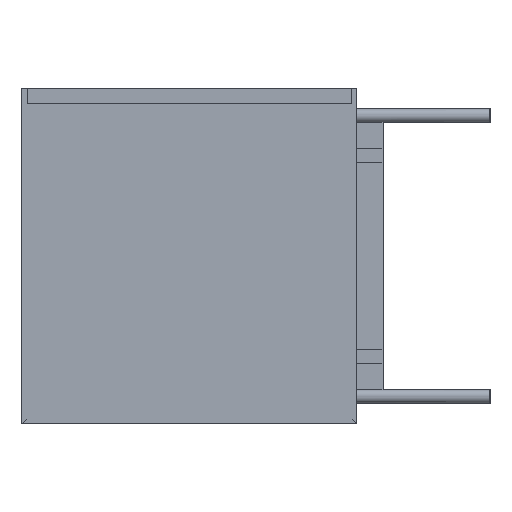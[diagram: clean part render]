
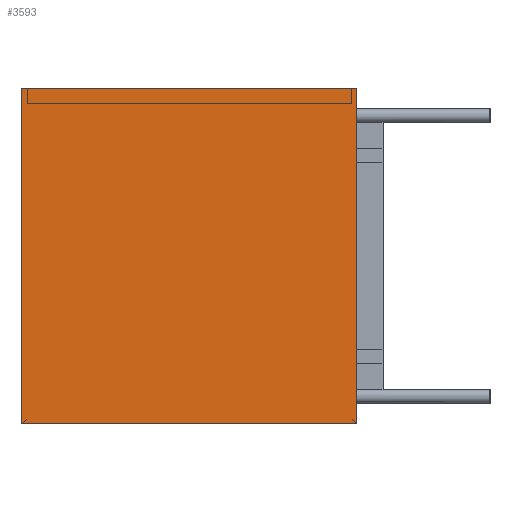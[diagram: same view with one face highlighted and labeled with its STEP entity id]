
A CAD part, left-side view. The second image highlights one B-rep face of the part: STEP entity #3593.
In plain terms, the highlighted planar face has unit normal (-1, 0, 0).
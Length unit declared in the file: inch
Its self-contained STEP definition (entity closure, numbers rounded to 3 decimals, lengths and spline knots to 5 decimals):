
#680=FACE_OUTER_BOUND('',#863,.T.);
#863=EDGE_LOOP('',(#2574,#2575,#2576,#2577));
#1051=LINE('',#5112,#1433);
#1055=LINE('',#5119,#1437);
#1058=LINE('',#5125,#1440);
#1060=LINE('',#5129,#1442);
#1433=VECTOR('',#4195,0.3937);
#1437=VECTOR('',#4201,0.3937);
#1440=VECTOR('',#4206,0.3937);
#1442=VECTOR('',#4212,0.3937);
#1813=VERTEX_POINT('',#5109);
#1814=VERTEX_POINT('',#5111);
#1816=VERTEX_POINT('',#5117);
#1817=VERTEX_POINT('',#5121);
#2109=EDGE_CURVE('',#1814,#1813,#1051,.T.);
#2113=EDGE_CURVE('',#1816,#1813,#1055,.T.);
#2116=EDGE_CURVE('',#1817,#1814,#1058,.T.);
#2118=EDGE_CURVE('',#1817,#1816,#1060,.T.);
#2574=ORIENTED_EDGE('',*,*,#2116,.T.);
#2575=ORIENTED_EDGE('',*,*,#2109,.T.);
#2576=ORIENTED_EDGE('',*,*,#2113,.F.);
#2577=ORIENTED_EDGE('',*,*,#2118,.F.);
#3431=PLANE('',#3920);
#3593=ADVANCED_FACE('',(#680),#3431,.T.);
#3920=AXIS2_PLACEMENT_3D('',#5130,#4213,#4214);
#4195=DIRECTION('',(0.,0.,1.));
#4201=DIRECTION('',(0.,-1.,0.));
#4206=DIRECTION('',(0.,-1.,0.));
#4212=DIRECTION('',(0.,0.,1.));
#4213=DIRECTION('center_axis',(-1.,0.,0.));
#4214=DIRECTION('ref_axis',(0.,-1.,0.));
#5109=CARTESIAN_POINT('',(0.,0.,25.));
#5111=CARTESIAN_POINT('',(0.,0.,0.));
#5112=CARTESIAN_POINT('',(0.,0.,0.));
#5117=CARTESIAN_POINT('',(0.,25.,25.));
#5119=CARTESIAN_POINT('',(0.,25.,25.));
#5121=CARTESIAN_POINT('',(0.,25.,0.));
#5125=CARTESIAN_POINT('',(0.,25.,0.));
#5129=CARTESIAN_POINT('',(0.,25.,0.));
#5130=CARTESIAN_POINT('Origin',(0.,25.,0.));
